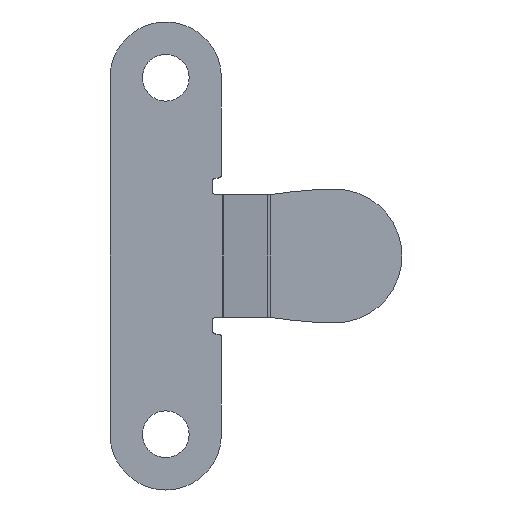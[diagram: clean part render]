
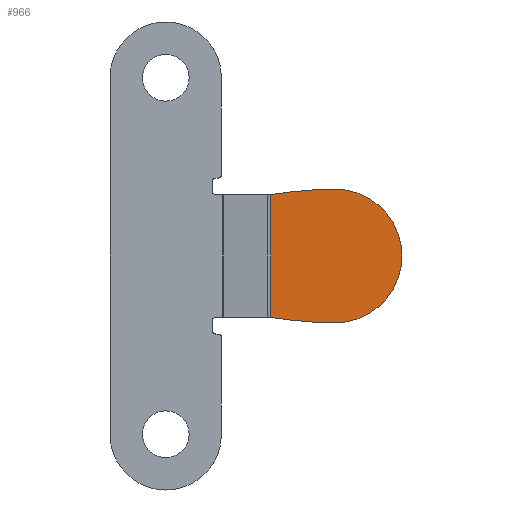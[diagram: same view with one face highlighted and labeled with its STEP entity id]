
A CAD part, front view. The second image highlights one B-rep face of the part: STEP entity #966.
In plain terms, the highlighted planar face has unit normal (0, -1, 0).
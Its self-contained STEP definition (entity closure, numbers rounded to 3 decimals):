
#150 = DIRECTION ( 'NONE',  ( 0., 0., -1. ) ) ;
#151 = CARTESIAN_POINT ( 'NONE',  ( 9.412, -0.5, 10.5 ) ) ;
#153 = LINE ( 'NONE', #151, #787 ) ;
#167 = EDGE_LOOP ( 'NONE', ( #452, #451, #450, #449, #448, #447 ) ) ;
#177 = DIRECTION ( 'NONE',  ( 0., 0., -1. ) ) ;
#179 = DIRECTION ( 'NONE',  ( 0., 1., 0. ) ) ;
#181 = CARTESIAN_POINT ( 'NONE',  ( 15.7, -0.5, 49.996 ) ) ;
#257 = CARTESIAN_POINT ( 'NONE',  ( 15.112, -0.5, 10.001 ) ) ;
#259 = CARTESIAN_POINT ( 'NONE',  ( 15.2, -0.5, 10. ) ) ;
#264 = CARTESIAN_POINT ( 'NONE',  ( 15.2, -0.5, 22. ) ) ;
#271 = CARTESIAN_POINT ( 'NONE',  ( 15.112, -0.5, 21.999 ) ) ;
#274 = CARTESIAN_POINT ( 'NONE',  ( 9.412, -0.5, 10.494 ) ) ;
#277 = CARTESIAN_POINT ( 'NONE',  ( 9.412, -0.5, 21.506 ) ) ;
#362 = VERTEX_POINT ( 'NONE', #277 ) ;
#365 = VERTEX_POINT ( 'NONE', #274 ) ;
#368 = VERTEX_POINT ( 'NONE', #271 ) ;
#447 = ORIENTED_EDGE ( 'NONE', *, *, #979, .F. ) ;
#448 = ORIENTED_EDGE ( 'NONE', *, *, #1366, .F. ) ;
#449 = ORIENTED_EDGE ( 'NONE', *, *, #1363, .F. ) ;
#450 = ORIENTED_EDGE ( 'NONE', *, *, #700, .F. ) ;
#451 = ORIENTED_EDGE ( 'NONE', *, *, #710, .T. ) ;
#452 = ORIENTED_EDGE ( 'NONE', *, *, #981, .F. ) ;
#505 = VERTEX_POINT ( 'NONE', #259 ) ;
#508 = VERTEX_POINT ( 'NONE', #264 ) ;
#509 = VERTEX_POINT ( 'NONE', #257 ) ;
#696 = CARTESIAN_POINT ( 'NONE',  ( 15.2, -0.5, 16. ) ) ;
#698 = DIRECTION ( 'NONE',  ( 0., 1., 0. ) ) ;
#700 = EDGE_CURVE ( 'NONE', #509, #365, #776, .T. ) ;
#699 = DIRECTION ( 'NONE',  ( 0., 0., 1. ) ) ;
#705 = CARTESIAN_POINT ( 'NONE',  ( 15.7, -0.5, -17.996 ) ) ;
#706 = DIRECTION ( 'NONE',  ( 0., 1., 0. ) ) ;
#707 = DIRECTION ( 'NONE',  ( 0., 0., 1. ) ) ;
#710 = EDGE_CURVE ( 'NONE', #362, #365, #153, .T. ) ;
#743 = AXIS2_PLACEMENT_3D ( 'NONE', #181, #179, #177 ) ;
#776 = CIRCLE ( 'NONE', #743, 40. ) ;
#787 = VECTOR ( 'NONE', #150, 1000. ) ;
#825 = CARTESIAN_POINT ( 'NONE',  ( 15.2, -0.5, 16. ) ) ;
#826 = DIRECTION ( 'NONE',  ( 0., 1., 0. ) ) ;
#827 = DIRECTION ( 'NONE',  ( 0., 0., 1. ) ) ;
#836 = CARTESIAN_POINT ( 'NONE',  ( 15.2, -0.5, 16. ) ) ;
#837 = DIRECTION ( 'NONE',  ( 0., 1., 0. ) ) ;
#838 = DIRECTION ( 'NONE',  ( 0., 0., 1. ) ) ;
#966 = ADVANCED_FACE ( 'NONE', ( #1079 ), #1080, .F. ) ;
#979 = EDGE_CURVE ( 'NONE', #368, #508, #1322, .T. ) ;
#981 = EDGE_CURVE ( 'NONE', #362, #368, #1222, .T. ) ;
#1069 = CARTESIAN_POINT ( 'NONE',  ( 0., -0.5, 0. ) ) ;
#1079 = FACE_OUTER_BOUND ( 'NONE', #167, .T. ) ;
#1080 = PLANE ( 'NONE',  #1255 ) ;
#1082 = DIRECTION ( 'NONE',  ( 0., 1., 0. ) ) ;
#1083 = DIRECTION ( 'NONE',  ( 0., 0., 1. ) ) ;
#1155 = AXIS2_PLACEMENT_3D ( 'NONE', #836, #837, #838 ) ;
#1165 = CIRCLE ( 'NONE', #1155, 6. ) ;
#1222 = CIRCLE ( 'NONE', #1333, 40. ) ;
#1225 = CIRCLE ( 'NONE', #1252, 6. ) ;
#1252 = AXIS2_PLACEMENT_3D ( 'NONE', #825, #826, #827 ) ;
#1255 = AXIS2_PLACEMENT_3D ( 'NONE', #1069, #1082, #1083 ) ;
#1312 = AXIS2_PLACEMENT_3D ( 'NONE', #696, #698, #699 ) ;
#1322 = CIRCLE ( 'NONE', #1312, 6. ) ;
#1333 = AXIS2_PLACEMENT_3D ( 'NONE', #705, #706, #707 ) ;
#1363 = EDGE_CURVE ( 'NONE', #505, #509, #1225, .T. ) ;
#1366 = EDGE_CURVE ( 'NONE', #508, #505, #1165, .T. ) ;
